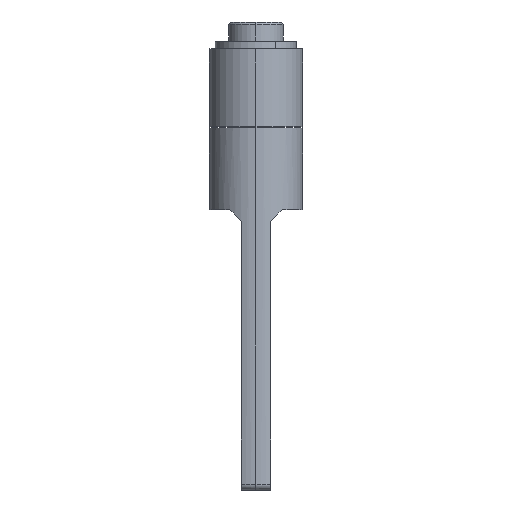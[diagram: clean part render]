
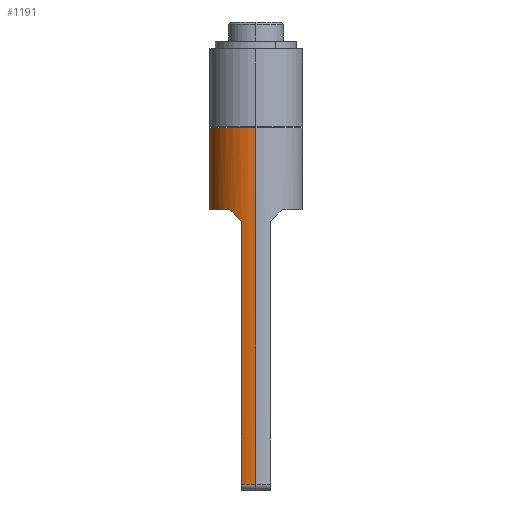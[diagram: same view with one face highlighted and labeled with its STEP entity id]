
A CAD part, left-side view. The second image highlights one B-rep face of the part: STEP entity #1191.
In plain terms, the highlighted cylindrical face has radius 4 mm (diameter 8 mm), a partial arc.
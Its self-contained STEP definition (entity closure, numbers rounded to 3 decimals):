
#89 = VERTEX_POINT ( 'NONE', #2020 ) ;
#98 = DIRECTION ( 'NONE',  ( -1., 0., 0. ) ) ;
#108 = ORIENTED_EDGE ( 'NONE', *, *, #1709, .T. ) ;
#111 = AXIS2_PLACEMENT_3D ( 'NONE', #1401, #2255, #507 ) ;
#151 = VERTEX_POINT ( 'NONE', #375 ) ;
#196 = DIRECTION ( 'NONE',  ( 0., 0., 1. ) ) ;
#201 = VERTEX_POINT ( 'NONE', #1610 ) ;
#259 = CARTESIAN_POINT ( 'NONE',  ( -3.8, 1.25, -8.1 ) ) ;
#320 = CARTESIAN_POINT ( 'NONE',  ( -3.307, 2.25, -7.1 ) ) ;
#346 = DIRECTION ( 'NONE',  ( -1., 0., 0. ) ) ;
#368 = AXIS2_PLACEMENT_3D ( 'NONE', #1245, #3058, #1801 ) ;
#375 = CARTESIAN_POINT ( 'NONE',  ( -3.8, 1.25, -30.6 ) ) ;
#384 = VERTEX_POINT ( 'NONE', #609 ) ;
#424 = CIRCLE ( 'NONE', #3116, 4. ) ;
#507 = DIRECTION ( 'NONE',  ( 1., 0., 0. ) ) ;
#585 = CARTESIAN_POINT ( 'NONE',  ( 3.683, 1.605, -7.745 ) ) ;
#596 = ORIENTED_EDGE ( 'NONE', *, *, #1633, .T. ) ;
#609 = CARTESIAN_POINT ( 'NONE',  ( 3.8, 1.25, -8.1 ) ) ;
#665 = CARTESIAN_POINT ( 'NONE',  ( 0., 0., -30.6 ) ) ;
#670 = DIRECTION ( 'NONE',  ( 0., 0., -1. ) ) ;
#673 = CARTESIAN_POINT ( 'NONE',  ( 0., 0., -7.1 ) ) ;
#828 = CARTESIAN_POINT ( 'NONE',  ( 3.307, 2.25, -7.1 ) ) ;
#859 = EDGE_CURVE ( 'NONE', #201, #2168, #424, .T. ) ;
#981 = DIRECTION ( 'NONE',  ( 0., 0., 1. ) ) ;
#1086 = DIRECTION ( 'NONE',  ( 0., 0., -1. ) ) ;
#1191 = ADVANCED_FACE ( 'NONE', ( #2016 ), #3134, .T. ) ;
#1245 = CARTESIAN_POINT ( 'NONE',  ( 0., 0., -30.6 ) ) ;
#1267 = CARTESIAN_POINT ( 'NONE',  ( 4., 0., -30.6 ) ) ;
#1308 = VECTOR ( 'NONE', #2340, 1000. ) ;
#1401 = CARTESIAN_POINT ( 'NONE',  ( 0., 0., -31.1 ) ) ;
#1483 = CIRCLE ( 'NONE', #3581, 4. ) ;
#1491 =( BOUNDED_CURVE ( )  B_SPLINE_CURVE ( 3, ( #320, #2073, #2374, #1510 ),
 .UNSPECIFIED., .F., .T. ) 
 B_SPLINE_CURVE_WITH_KNOTS ( ( 4, 4 ),
 ( 0.973, 1.253 ),
 .UNSPECIFIED. ) 
 CURVE ( )  GEOMETRIC_REPRESENTATION_ITEM ( )  RATIONAL_B_SPLINE_CURVE ( ( 1., 0.993, 0.993, 1. ) ) 
 REPRESENTATION_ITEM ( '' )  );
#1510 = CARTESIAN_POINT ( 'NONE',  ( -3.8, 1.25, -8.1 ) ) ;
#1610 = CARTESIAN_POINT ( 'NONE',  ( -4., 0., -0.1 ) ) ;
#1633 = EDGE_CURVE ( 'NONE', #2975, #2337, #1483, .T. ) ;
#1641 = VECTOR ( 'NONE', #3791, 1000. ) ;
#1709 = EDGE_CURVE ( 'NONE', #151, #89, #2114, .T. ) ;
#1724 = CARTESIAN_POINT ( 'NONE',  ( -3.307, 2.25, -7.1 ) ) ;
#1725 = EDGE_LOOP ( 'NONE', ( #108, #1797, #1850, #3007, #596, #3841, #2981, #2137, #2583, #2309 ) ) ;
#1797 = ORIENTED_EDGE ( 'NONE', *, *, #2211, .T. ) ;
#1801 = DIRECTION ( 'NONE',  ( -1., 0., 0. ) ) ;
#1831 = CIRCLE ( 'NONE', #3088, 4. ) ;
#1846 = DIRECTION ( 'NONE',  ( 1., 0., 0. ) ) ;
#1850 = ORIENTED_EDGE ( 'NONE', *, *, #859, .T. ) ;
#1860 = VERTEX_POINT ( 'NONE', #3566 ) ;
#1918 = VERTEX_POINT ( 'NONE', #259 ) ;
#1968 = CARTESIAN_POINT ( 'NONE',  ( 3.8, 1.25, -31.1 ) ) ;
#2016 = FACE_OUTER_BOUND ( 'NONE', #1725, .T. ) ;
#2020 = CARTESIAN_POINT ( 'NONE',  ( -4., 0., -30.6 ) ) ;
#2073 = CARTESIAN_POINT ( 'NONE',  ( -3.518, 1.941, -7.409 ) ) ;
#2101 = CARTESIAN_POINT ( 'NONE',  ( 3.8, 1.25, -30.6 ) ) ;
#2114 = CIRCLE ( 'NONE', #368, 4. ) ;
#2137 = ORIENTED_EDGE ( 'NONE', *, *, #3749, .T. ) ;
#2141 = DIRECTION ( 'NONE',  ( 0., 0., 1. ) ) ;
#2168 = VERTEX_POINT ( 'NONE', #2566 ) ;
#2211 = EDGE_CURVE ( 'NONE', #89, #201, #3263, .T. ) ;
#2231 = EDGE_CURVE ( 'NONE', #384, #1860, #3553, .T. ) ;
#2237 = LINE ( 'NONE', #1968, #1641 ) ;
#2255 = DIRECTION ( 'NONE',  ( 0., 0., 1. ) ) ;
#2309 = ORIENTED_EDGE ( 'NONE', *, *, #2451, .T. ) ;
#2337 = VERTEX_POINT ( 'NONE', #2101 ) ;
#2340 = DIRECTION ( 'NONE',  ( 0., 0., 1. ) ) ;
#2374 = CARTESIAN_POINT ( 'NONE',  ( -3.683, 1.605, -7.745 ) ) ;
#2375 = CARTESIAN_POINT ( 'NONE',  ( 3.8, 1.25, -8.1 ) ) ;
#2398 = VECTOR ( 'NONE', #196, 1000. ) ;
#2451 = EDGE_CURVE ( 'NONE', #1918, #151, #3419, .T. ) ;
#2513 = CARTESIAN_POINT ( 'NONE',  ( 4., 0., -31.1 ) ) ;
#2549 = VERTEX_POINT ( 'NONE', #1724 ) ;
#2566 = CARTESIAN_POINT ( 'NONE',  ( 4., 0., -0.1 ) ) ;
#2583 = ORIENTED_EDGE ( 'NONE', *, *, #2717, .T. ) ;
#2717 = EDGE_CURVE ( 'NONE', #2549, #1918, #1491, .T. ) ;
#2975 = VERTEX_POINT ( 'NONE', #1267 ) ;
#2981 = ORIENTED_EDGE ( 'NONE', *, *, #2231, .T. ) ;
#3007 = ORIENTED_EDGE ( 'NONE', *, *, #3147, .F. ) ;
#3058 = DIRECTION ( 'NONE',  ( 0., 0., 1. ) ) ;
#3088 = AXIS2_PLACEMENT_3D ( 'NONE', #673, #2141, #1846 ) ;
#3114 = EDGE_CURVE ( 'NONE', #2337, #384, #2237, .T. ) ;
#3116 = AXIS2_PLACEMENT_3D ( 'NONE', #3143, #670, #98 ) ;
#3134 = CYLINDRICAL_SURFACE ( 'NONE', #111, 4. ) ;
#3143 = CARTESIAN_POINT ( 'NONE',  ( 0., 0., -0.1 ) ) ;
#3147 = EDGE_CURVE ( 'NONE', #2975, #2168, #3185, .T. ) ;
#3168 = CARTESIAN_POINT ( 'NONE',  ( -3.8, 1.25, -31.1 ) ) ;
#3185 = LINE ( 'NONE', #2513, #2398 ) ;
#3263 = LINE ( 'NONE', #3826, #1308 ) ;
#3272 = VECTOR ( 'NONE', #1086, 1000. ) ;
#3419 = LINE ( 'NONE', #3168, #3272 ) ;
#3553 =( BOUNDED_CURVE ( )  B_SPLINE_CURVE ( 3, ( #2375, #585, #3580, #828 ),
 .UNSPECIFIED., .F., .T. ) 
 B_SPLINE_CURVE_WITH_KNOTS ( ( 4, 4 ),
 ( 5.03, 5.31 ),
 .UNSPECIFIED. ) 
 CURVE ( )  GEOMETRIC_REPRESENTATION_ITEM ( )  RATIONAL_B_SPLINE_CURVE ( ( 1., 0.993, 0.993, 1. ) ) 
 REPRESENTATION_ITEM ( '' )  );
#3566 = CARTESIAN_POINT ( 'NONE',  ( 3.307, 2.25, -7.1 ) ) ;
#3580 = CARTESIAN_POINT ( 'NONE',  ( 3.518, 1.941, -7.409 ) ) ;
#3581 = AXIS2_PLACEMENT_3D ( 'NONE', #665, #981, #346 ) ;
#3749 = EDGE_CURVE ( 'NONE', #1860, #2549, #1831, .T. ) ;
#3791 = DIRECTION ( 'NONE',  ( 0., 0., 1. ) ) ;
#3826 = CARTESIAN_POINT ( 'NONE',  ( -4., 0., -31.1 ) ) ;
#3841 = ORIENTED_EDGE ( 'NONE', *, *, #3114, .T. ) ;
